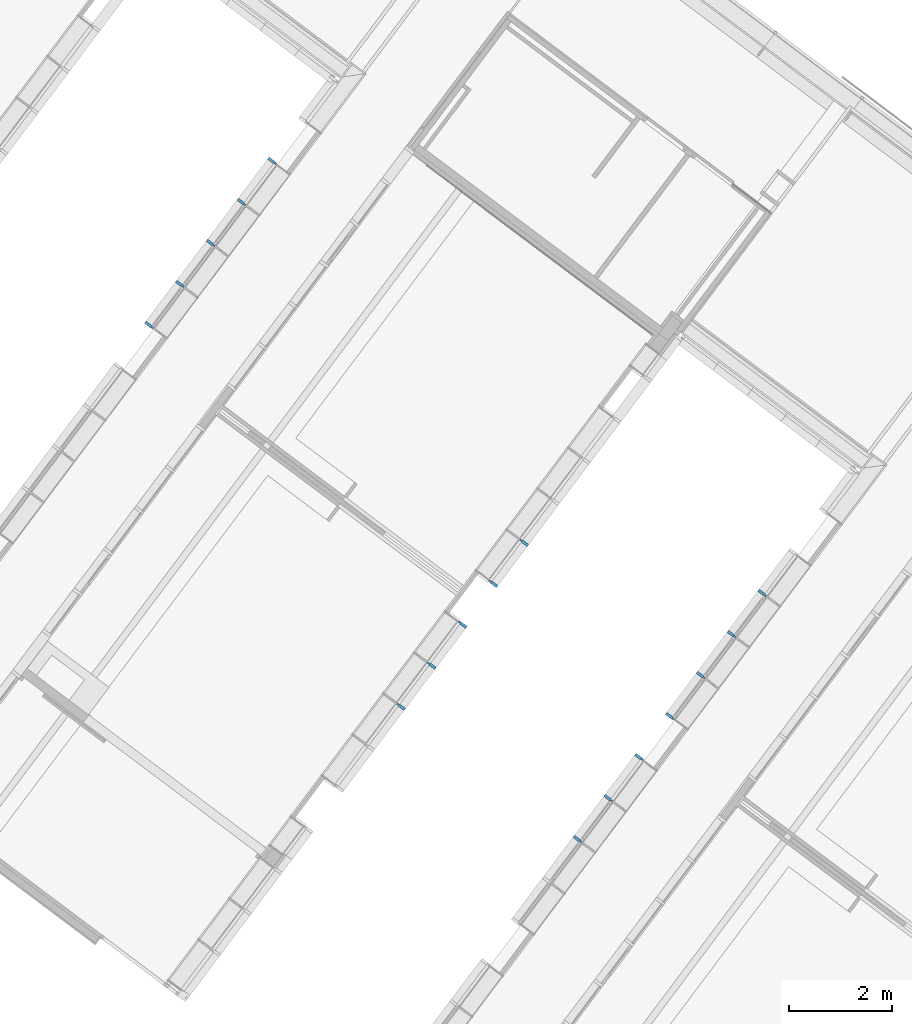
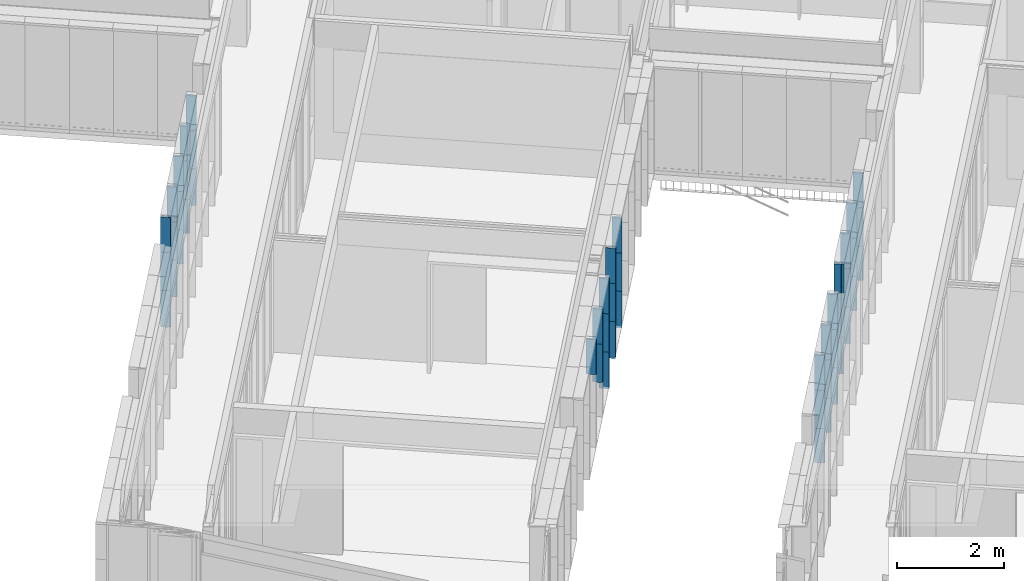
# One storey, part 96 of 243: 48 members, 3 elements without a shape of their own.
"""IFC2X3 building model written with IfcOpenShell, lengths in metres."""

from ifc_helpers import new_model, entity, si_unit, converted_unit, derived_unit, direction, frame, origin, place, context, subcontext, project, spatial, polyline, outline, extrude, source, transform, mapped, material, type_object, type_shapes, element, aggregate, save


model = new_model("IFC2X3")

# Units and contexts
model_context = context("Model", 3, precision=1e-05, world=origin(), true_north=direction((6.123031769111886e-17, 1.0)))
body_context = subcontext(model_context, "Body", "Model", "MODEL_VIEW")
ifc_project = project(units=[si_unit("LENGTHUNIT", "METRE"), si_unit("AREAUNIT", "SQUARE_METRE"), si_unit("VOLUMEUNIT", "CUBIC_METRE"), converted_unit("PLANEANGLEUNIT", "DEGREE", entity("IfcRatioMeasure", 0.017453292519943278), si_unit("PLANEANGLEUNIT", "RADIAN"), dimensions=[0, 0, 0, 0, 0, 0, 0]), si_unit("MASSUNIT", "GRAM", prefix="KILO"), derived_unit("MASSDENSITYUNIT", [(si_unit("MASSUNIT", "GRAM", prefix="KILO"), 1), (si_unit("LENGTHUNIT", "METRE"), -3)]), derived_unit("IONCONCENTRATIONUNIT", [(si_unit("MASSUNIT", "GRAM", prefix="KILO"), 1), (si_unit("LENGTHUNIT", "METRE"), -3)]), derived_unit("MOMENTOFINERTIAUNIT", [(si_unit("LENGTHUNIT", "METRE"), 4)]), si_unit("TIMEUNIT", "SECOND"), si_unit("FREQUENCYUNIT", "HERTZ"), si_unit("THERMODYNAMICTEMPERATUREUNIT", "DEGREE_CELSIUS"), derived_unit("THERMALTRANSMITTANCEUNIT", [(si_unit("MASSUNIT", "GRAM", prefix="KILO"), 1), (si_unit("THERMODYNAMICTEMPERATUREUNIT", "KELVIN"), -1), (si_unit("TIMEUNIT", "SECOND"), -3)]), derived_unit("THERMALCONDUCTANCEUNIT", [(si_unit("MASSUNIT", "GRAM", prefix="KILO"), 1), (si_unit("THERMODYNAMICTEMPERATUREUNIT", "KELVIN"), -1), (si_unit("TIMEUNIT", "SECOND"), -3), (si_unit("LENGTHUNIT", "METRE"), 1)]), derived_unit("VOLUMETRICFLOWRATEUNIT", [(si_unit("LENGTHUNIT", "METRE"), 3), (si_unit("TIMEUNIT", "SECOND"), -1)]), derived_unit("MASSFLOWRATEUNIT", [(si_unit("MASSUNIT", "GRAM", prefix="KILO"), 1), (si_unit("TIMEUNIT", "SECOND"), -1)]), derived_unit("ROTATIONALFREQUENCYUNIT", [(si_unit("TIMEUNIT", "SECOND"), -1)]), si_unit("ELECTRICCURRENTUNIT", "AMPERE"), si_unit("ELECTRICVOLTAGEUNIT", "VOLT"), si_unit("POWERUNIT", "WATT"), si_unit("FORCEUNIT", "NEWTON", prefix="KILO"), si_unit("ILLUMINANCEUNIT", "LUX"), si_unit("LUMINOUSFLUXUNIT", "LUMEN"), si_unit("LUMINOUSINTENSITYUNIT", "CANDELA"), derived_unit("USERDEFINED", [(si_unit("MASSUNIT", "GRAM", prefix="KILO"), -1), (si_unit("LENGTHUNIT", "METRE"), -2), (si_unit("TIMEUNIT", "SECOND"), 3), (si_unit("LUMINOUSFLUXUNIT", "LUMEN"), 1)]), derived_unit("USERDEFINED", [(si_unit("MASSUNIT", "GRAM", prefix="KILO"), 1), (si_unit("TIMEUNIT", "SECOND"), -3), (si_unit("LENGTHUNIT", "METRE"), 3), (si_unit("ELECTRICCURRENTUNIT", "AMPERE"), -2)]), derived_unit("SOUNDPOWERUNIT", [(si_unit("MASSUNIT", "GRAM", prefix="KILO"), 1), (si_unit("TIMEUNIT", "SECOND"), -3), (si_unit("LENGTHUNIT", "METRE"), 2)]), derived_unit("SOUNDPRESSUREUNIT", [(si_unit("MASSUNIT", "GRAM", prefix="KILO"), 1), (si_unit("LENGTHUNIT", "METRE"), -1), (si_unit("TIMEUNIT", "SECOND"), -2)]), derived_unit("LINEARVELOCITYUNIT", [(si_unit("LENGTHUNIT", "METRE"), 1), (si_unit("TIMEUNIT", "SECOND"), -1)]), si_unit("PRESSUREUNIT", "PASCAL"), derived_unit("USERDEFINED", [(si_unit("MASSUNIT", "GRAM", prefix="KILO"), 1), (si_unit("LENGTHUNIT", "METRE"), -2), (si_unit("TIMEUNIT", "SECOND"), -2)]), derived_unit("LINEARFORCEUNIT", [(si_unit("MASSUNIT", "GRAM", prefix="KILO"), 1), (si_unit("TIMEUNIT", "SECOND"), -2)]), derived_unit("PLANARFORCEUNIT", [(si_unit("MASSUNIT", "GRAM", prefix="KILO"), 1), (si_unit("LENGTHUNIT", "METRE"), -1), (si_unit("TIMEUNIT", "SECOND"), -2)]), derived_unit("SPECIFICHEATCAPACITYUNIT", [(si_unit("THERMODYNAMICTEMPERATUREUNIT", "KELVIN"), -1), (si_unit("LENGTHUNIT", "METRE"), 2), (si_unit("TIMEUNIT", "SECOND"), -2)]), derived_unit("HEATINGVALUEUNIT", [(si_unit("LENGTHUNIT", "METRE"), 2), (si_unit("TIMEUNIT", "SECOND"), -2)]), derived_unit("VAPORPERMEABILITYUNIT", [(si_unit("LENGTHUNIT", "METRE"), -1), (si_unit("TIMEUNIT", "SECOND"), 1)]), derived_unit("DYNAMICVISCOSITYUNIT", [(si_unit("MASSUNIT", "GRAM", prefix="KILO"), 1), (si_unit("TIMEUNIT", "SECOND"), -1), (si_unit("LENGTHUNIT", "METRE"), -1)]), derived_unit("THERMALEXPANSIONCOEFFICIENTUNIT", [(si_unit("THERMODYNAMICTEMPERATUREUNIT", "KELVIN"), -1)]), derived_unit("MODULUSOFELASTICITYUNIT", [(si_unit("MASSUNIT", "GRAM", prefix="KILO"), 1), (si_unit("LENGTHUNIT", "METRE"), -1), (si_unit("TIMEUNIT", "SECOND"), -2)]), derived_unit("ISOTHERMALMOISTURECAPACITYUNIT", [(si_unit("LENGTHUNIT", "METRE"), 3), (si_unit("MASSUNIT", "GRAM", prefix="KILO"), -1)]), derived_unit("MOISTUREDIFFUSIVITYUNIT", [(si_unit("TIMEUNIT", "SECOND"), -1), (si_unit("LENGTHUNIT", "METRE"), 2)])], contexts=[model_context])

# Site, building, storey
site_placement = place(None, frame((0.0, 0.0, 235.0), z_axis=(0.0, 0.0, 1.0), x_axis=(-0.7996477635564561, 0.6004693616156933, 0.0)))
site = spatial("IfcSite", under=ifc_project, at=site_placement, Name="Default", CompositionType="ELEMENT")
building_placement = place(site_placement, origin())
building = spatial("IfcBuilding", under=site, at=building_placement, CompositionType="ELEMENT")
storey_placement = place(building_placement, origin())
storey = spatial("IfcBuildingStorey", under=building, at=storey_placement, Name="P0- Escola", CompositionType="ELEMENT", Elevation=0.0)

# Curtain wall, members
curtain_wall_type_1 = type_object("IfcCurtainWallType", Name="Muro cortina:MC- EXT- MC2", PredefinedType="NOTDEFINED")
curtain_wall_1_placement = place(storey_placement, origin())
curtain_wall_1 = element("IfcCurtainWall", 1, at=curtain_wall_1_placement, inside=storey, type_object=curtain_wall_type_1, Name="Muro cortina:MC- EXT- MC2", ObjectType="Muro cortina:MC- EXT- MC2")
ifc_material = material(Name="_Alumini- T1- Perfil")
member_type_1 = type_object("IfcMemberType", Name="Montante rectangular:MC- Alu- 140x52,5 cm- Fa patis- Centre", PredefinedType="MULLION", material=ifc_material)
shared_shape_1 = source(origin(), body_context, "Body", "SweptSolid", [
    extrude(outline(polyline([(-0.11699999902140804, -0.026250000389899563), (0.021999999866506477, -0.026250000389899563), (0.021999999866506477, -0.01500000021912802), (0.07299999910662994, -0.01500000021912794), (0.07299999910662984, 0.015000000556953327), (0.02200000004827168, 0.015000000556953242), (0.02200000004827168, 0.026250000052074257), (-0.11699999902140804, 0.026250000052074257), (-0.11699999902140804, -0.026250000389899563)])), frame((0.0, 0.022999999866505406, -0.8400000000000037), z_axis=(0.0, 0.0, 1.0), x_axis=(0.0, -1.0, 0.0)), (0.0, 0.0, 1.0), 0.8400000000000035),
])
type_shapes(member_type_1, [shared_shape_1])
member_1_placement = place(curtain_wall_1_placement, frame((53.74514768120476, -29.415191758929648, -0.02), z_axis=(0.0, 0.0, -1.0), x_axis=(0.0, -1.0, 0.0)))
member_1 = element("IfcMember", 2, at=member_1_placement, type_object=member_type_1, material=ifc_material, Name="Montante rectangular:MC- Alu- 140x52,5 cm- Fa patis- Centre", ObjectType="Montante rectangular:MC- Alu- 140x52,5 cm- Fa patis- Centre", context=body_context, shape_type="MappedRepresentation", body=[
    mapped(shared_shape_1, transform((0.0, 0.0, 0.0), scale=1.0)),
])
member_2_placement = place(curtain_wall_1_placement, frame((53.74514768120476, -31.415191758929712, -0.02), z_axis=(0.0, 0.0, -1.0), x_axis=(0.0, -1.0, 0.0)))
member_2 = element("IfcMember", 3, at=member_2_placement, type_object=member_type_1, material=ifc_material, Name="Montante rectangular:MC- Alu- 140x52,5 cm- Fa patis- Centre", ObjectType="Montante rectangular:MC- Alu- 140x52,5 cm- Fa patis- Centre", context=body_context, shape_type="MappedRepresentation", body=[
    mapped(shared_shape_1, transform((0.0, 0.0, 0.0), scale=1.0)),
])
member_3_placement = place(curtain_wall_1_placement, frame((53.74514768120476, -30.41519175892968, -0.02), z_axis=(0.0, 0.0, -1.0), x_axis=(0.0, -1.0, 0.0)))
member_3 = element("IfcMember", 4, at=member_3_placement, type_object=member_type_1, material=ifc_material, Name="Montante rectangular:MC- Alu- 140x52,5 cm- Fa patis- Centre", ObjectType="Montante rectangular:MC- Alu- 140x52,5 cm- Fa patis- Centre", context=body_context, shape_type="MappedRepresentation", body=[
    mapped(shared_shape_1, transform((0.0, 0.0, 0.0), scale=1.0)),
])
member_type_2 = type_object("IfcMemberType", Name="Montante rectangular:MC- Alu- 140x52,5 cm- Fa patis- Centre", PredefinedType="MULLION", material=ifc_material)
shared_shape_2 = source(origin(), body_context, "Body", "SweptSolid", [
    extrude(outline(polyline([(-0.11699999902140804, -0.026250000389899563), (0.021999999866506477, -0.026250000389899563), (0.021999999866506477, -0.01500000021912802), (0.07299999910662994, -0.01500000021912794), (0.07299999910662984, 0.015000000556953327), (0.02200000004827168, 0.015000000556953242), (0.02200000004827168, 0.026250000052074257), (-0.11699999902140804, 0.026250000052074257), (-0.11699999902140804, -0.026250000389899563)])), frame((0.0, 0.022999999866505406, -0.8750000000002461), z_axis=(0.0, 0.0, 1.0), x_axis=(0.0, -1.0, 0.0)), (0.0, 0.0, 1.0), 0.8750000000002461),
])
type_shapes(member_type_2, [shared_shape_2])
member_4_placement = place(curtain_wall_1_placement, frame((53.74514768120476, -28.415191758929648, 0.8200000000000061), z_axis=(0.0, 0.0, -1.0), x_axis=(0.0, -1.0, 0.0)))
member_4 = element("IfcMember", 5, at=member_4_placement, type_object=member_type_2, material=ifc_material, Name="Montante rectangular:MC- Alu- 140x52,5 cm- Fa patis- Centre", ObjectType="Montante rectangular:MC- Alu- 140x52,5 cm- Fa patis- Centre", context=body_context, shape_type="MappedRepresentation", body=[
    mapped(shared_shape_2, transform((0.0, 0.0, 0.0), scale=1.0)),
])
member_5_placement = place(curtain_wall_1_placement, frame((53.74514768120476, -29.415191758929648, 0.8200000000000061), z_axis=(0.0, 0.0, -1.0), x_axis=(0.0, -1.0, 0.0)))
member_5 = element("IfcMember", 6, at=member_5_placement, type_object=member_type_2, material=ifc_material, Name="Montante rectangular:MC- Alu- 140x52,5 cm- Fa patis- Centre", ObjectType="Montante rectangular:MC- Alu- 140x52,5 cm- Fa patis- Centre", context=body_context, shape_type="MappedRepresentation", body=[
    mapped(shared_shape_2, transform((0.0, 0.0, 0.0), scale=1.0)),
])
member_6_placement = place(curtain_wall_1_placement, frame((53.74514768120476, -30.41519175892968, 0.8200000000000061), z_axis=(0.0, 0.0, -1.0), x_axis=(0.0, -1.0, 0.0)))
member_6 = element("IfcMember", 7, at=member_6_placement, type_object=member_type_2, material=ifc_material, Name="Montante rectangular:MC- Alu- 140x52,5 cm- Fa patis- Centre", ObjectType="Montante rectangular:MC- Alu- 140x52,5 cm- Fa patis- Centre", context=body_context, shape_type="MappedRepresentation", body=[
    mapped(shared_shape_2, transform((0.0, 0.0, 0.0), scale=1.0)),
])
member_7_placement = place(curtain_wall_1_placement, frame((53.74514768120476, -31.415191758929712, 0.8200000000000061), z_axis=(0.0, 0.0, -1.0), x_axis=(0.0, -1.0, 0.0)))
member_7 = element("IfcMember", 8, at=member_7_placement, type_object=member_type_2, material=ifc_material, Name="Montante rectangular:MC- Alu- 140x52,5 cm- Fa patis- Centre", ObjectType="Montante rectangular:MC- Alu- 140x52,5 cm- Fa patis- Centre", context=body_context, shape_type="MappedRepresentation", body=[
    mapped(shared_shape_2, transform((0.0, 0.0, 0.0), scale=1.0)),
])
member_type_3 = type_object("IfcMemberType", Name="Montante rectangular:MC- Alu- 140x52,5 cm- Fa patis- Centre", PredefinedType="MULLION", material=ifc_material)
shared_shape_3 = source(origin(), body_context, "Body", "SweptSolid", [
    extrude(outline(polyline([(-0.11699999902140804, -0.026250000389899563), (0.021999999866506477, -0.026250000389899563), (0.021999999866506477, -0.01500000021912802), (0.07299999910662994, -0.01500000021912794), (0.07299999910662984, 0.015000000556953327), (0.02200000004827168, 0.015000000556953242), (0.02200000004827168, 0.026250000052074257), (-0.11699999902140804, 0.026250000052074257), (-0.11699999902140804, -0.026250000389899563)])), frame((0.0, 0.022999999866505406, -0.79749999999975), z_axis=(0.0, 0.0, 1.0), x_axis=(0.0, -1.0, 0.0)), (0.0, 0.0, 1.0), 0.79749999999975),
])
type_shapes(member_type_3, [shared_shape_3])
member_8_placement = place(curtain_wall_1_placement, frame((53.74514768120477, -27.41519175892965, 1.6950000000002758), z_axis=(0.0, 0.0, -1.0), x_axis=(0.0, -1.0, 0.0)))
member_8 = element("IfcMember", 9, at=member_8_placement, type_object=member_type_3, material=ifc_material, Name="Montante rectangular:MC- Alu- 140x52,5 cm- Fa patis- Centre", ObjectType="Montante rectangular:MC- Alu- 140x52,5 cm- Fa patis- Centre", context=body_context, shape_type="MappedRepresentation", body=[
    mapped(shared_shape_3, transform((0.0, 0.0, 0.0), scale=1.0)),
])
member_9_placement = place(curtain_wall_1_placement, frame((53.74514768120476, -28.415191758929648, 1.6950000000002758), z_axis=(0.0, 0.0, -1.0), x_axis=(0.0, -1.0, 0.0)))
member_9 = element("IfcMember", 10, at=member_9_placement, type_object=member_type_3, material=ifc_material, Name="Montante rectangular:MC- Alu- 140x52,5 cm- Fa patis- Centre", ObjectType="Montante rectangular:MC- Alu- 140x52,5 cm- Fa patis- Centre", context=body_context, shape_type="MappedRepresentation", body=[
    mapped(shared_shape_3, transform((0.0, 0.0, 0.0), scale=1.0)),
])
member_10_placement = place(curtain_wall_1_placement, frame((53.74514768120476, -29.415191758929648, 1.6950000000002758), z_axis=(0.0, 0.0, -1.0), x_axis=(0.0, -1.0, 0.0)))
member_10 = element("IfcMember", 11, at=member_10_placement, type_object=member_type_3, material=ifc_material, Name="Montante rectangular:MC- Alu- 140x52,5 cm- Fa patis- Centre", ObjectType="Montante rectangular:MC- Alu- 140x52,5 cm- Fa patis- Centre", context=body_context, shape_type="MappedRepresentation", body=[
    mapped(shared_shape_3, transform((0.0, 0.0, 0.0), scale=1.0)),
])
member_11_placement = place(curtain_wall_1_placement, frame((53.74514768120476, -30.41519175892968, 1.6950000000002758), z_axis=(0.0, 0.0, -1.0), x_axis=(0.0, -1.0, 0.0)))
member_11 = element("IfcMember", 12, at=member_11_placement, type_object=member_type_3, material=ifc_material, Name="Montante rectangular:MC- Alu- 140x52,5 cm- Fa patis- Centre", ObjectType="Montante rectangular:MC- Alu- 140x52,5 cm- Fa patis- Centre", context=body_context, shape_type="MappedRepresentation", body=[
    mapped(shared_shape_3, transform((0.0, 0.0, 0.0), scale=1.0)),
])
member_12_placement = place(curtain_wall_1_placement, frame((53.74514768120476, -31.415191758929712, 1.6950000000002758), z_axis=(0.0, 0.0, -1.0), x_axis=(0.0, -1.0, 0.0)))
member_12 = element("IfcMember", 13, at=member_12_placement, type_object=member_type_3, material=ifc_material, Name="Montante rectangular:MC- Alu- 140x52,5 cm- Fa patis- Centre", ObjectType="Montante rectangular:MC- Alu- 140x52,5 cm- Fa patis- Centre", context=body_context, shape_type="MappedRepresentation", body=[
    mapped(shared_shape_3, transform((0.0, 0.0, 0.0), scale=1.0)),
])
aggregate(curtain_wall_1, [member_1, member_2, member_3, member_4, member_5, member_6, member_7, member_8, member_9, member_10, member_11, member_12])

curtain_wall_type_2 = type_object("IfcCurtainWallType", Name="Muro cortina:MC- EXT- MC5", PredefinedType="NOTDEFINED")
curtain_wall_2_placement = place(storey_placement, origin())
curtain_wall_2 = element("IfcCurtainWall", 14, at=curtain_wall_2_placement, inside=storey, type_object=curtain_wall_type_2, Name="Muro cortina:MC- EXT- MC5", ObjectType="Muro cortina:MC- EXT- MC5")
member_type_4 = type_object("IfcMemberType", Name="Montante rectangular:MC- Alu- 140x52,5 cm- Fa patis- Centre", PredefinedType="MULLION", material=ifc_material)
shared_shape_4 = source(origin(), body_context, "Body", "SweptSolid", [
    extrude(outline(polyline([(-0.021999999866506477, -0.026250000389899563), (0.11699999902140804, -0.026250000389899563), (0.11699999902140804, 0.026250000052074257), (-0.02200000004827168, 0.026250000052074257), (-0.02200000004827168, 0.015000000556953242), (-0.07299999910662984, 0.015000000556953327), (-0.07299999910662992, -0.01500000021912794), (-0.021999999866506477, -0.01500000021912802), (-0.021999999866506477, -0.026250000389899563)])), frame((0.0, -0.022999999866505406, -0.8400000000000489), z_axis=(0.0, 0.0, 1.0), x_axis=(0.0, -1.0, 0.0)), (0.0, 0.0, 1.0), 0.8400000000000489),
])
type_shapes(member_type_4, [shared_shape_4])
member_13_placement = place(curtain_wall_2_placement, frame((49.34514768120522, -29.415191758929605, -0.02), z_axis=(0.0, 0.0, -1.0), x_axis=(0.0, -1.0, 0.0)))
member_13 = element("IfcMember", 15, at=member_13_placement, type_object=member_type_4, material=ifc_material, Name="Montante rectangular:MC- Alu- 140x52,5 cm- Fa patis- Centre", ObjectType="Montante rectangular:MC- Alu- 140x52,5 cm- Fa patis- Centre", context=body_context, shape_type="MappedRepresentation", body=[
    mapped(shared_shape_4, transform((0.0, 0.0, 0.0), scale=1.0)),
])
member_14_placement = place(curtain_wall_2_placement, frame((49.34514768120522, -31.41519175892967, -0.02), z_axis=(0.0, 0.0, -1.0), x_axis=(0.0, -1.0, 0.0)))
member_14 = element("IfcMember", 16, at=member_14_placement, type_object=member_type_4, material=ifc_material, Name="Montante rectangular:MC- Alu- 140x52,5 cm- Fa patis- Centre", ObjectType="Montante rectangular:MC- Alu- 140x52,5 cm- Fa patis- Centre", context=body_context, shape_type="MappedRepresentation", body=[
    mapped(shared_shape_4, transform((0.0, 0.0, 0.0), scale=1.0)),
])
member_15_placement = place(curtain_wall_2_placement, frame((49.34514768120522, -30.415191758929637, -0.02), z_axis=(0.0, 0.0, -1.0), x_axis=(0.0, -1.0, 0.0)))
member_15 = element("IfcMember", 17, at=member_15_placement, type_object=member_type_4, material=ifc_material, Name="Montante rectangular:MC- Alu- 140x52,5 cm- Fa patis- Centre", ObjectType="Montante rectangular:MC- Alu- 140x52,5 cm- Fa patis- Centre", context=body_context, shape_type="MappedRepresentation", body=[
    mapped(shared_shape_4, transform((0.0, 0.0, 0.0), scale=1.0)),
])

curtain_wall_3_placement = place(storey_placement, origin())
curtain_wall_3 = element("IfcCurtainWall", 18, at=curtain_wall_3_placement, inside=storey, type_object=curtain_wall_type_2, Name="Muro cortina:MC- EXT- MC5", ObjectType="Muro cortina:MC- EXT- MC5")
member_16_placement = place(curtain_wall_3_placement, frame((62.045147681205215, -31.415191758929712, -0.02), z_axis=(0.0, 0.0, -1.0), x_axis=(0.0, -1.0, 0.0)))
member_16 = element("IfcMember", 19, at=member_16_placement, type_object=member_type_4, material=ifc_material, Name="Montante rectangular:MC- Alu- 140x52,5 cm- Fa patis- Centre", ObjectType="Montante rectangular:MC- Alu- 140x52,5 cm- Fa patis- Centre", context=body_context, shape_type="MappedRepresentation", body=[
    mapped(shared_shape_4, transform((0.0, 0.0, 0.0), scale=1.0)),
])
member_17_placement = place(curtain_wall_3_placement, frame((62.045147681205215, -30.41519175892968, -0.02), z_axis=(0.0, 0.0, -1.0), x_axis=(0.0, -1.0, 0.0)))
member_17 = element("IfcMember", 20, at=member_17_placement, type_object=member_type_4, material=ifc_material, Name="Montante rectangular:MC- Alu- 140x52,5 cm- Fa patis- Centre", ObjectType="Montante rectangular:MC- Alu- 140x52,5 cm- Fa patis- Centre", context=body_context, shape_type="MappedRepresentation", body=[
    mapped(shared_shape_4, transform((0.0, 0.0, 0.0), scale=1.0)),
])
member_18_placement = place(curtain_wall_3_placement, frame((62.04514768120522, -34.4151917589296, -0.02), z_axis=(0.0, 0.0, -1.0), x_axis=(0.0, -1.0, 0.0)))
member_18 = element("IfcMember", 21, at=member_18_placement, type_object=member_type_4, material=ifc_material, Name="Montante rectangular:MC- Alu- 140x52,5 cm- Fa patis- Centre", ObjectType="Montante rectangular:MC- Alu- 140x52,5 cm- Fa patis- Centre", context=body_context, shape_type="MappedRepresentation", body=[
    mapped(shared_shape_4, transform((0.0, 0.0, 0.0), scale=1.0)),
])

# Member
member_type_5 = type_object("IfcMemberType", Name="Montante rectangular:MC- Alu- 140x52,5 cm- Fa patis- Centre", PredefinedType="MULLION", material=ifc_material)
shared_shape_5 = source(origin(), body_context, "Body", "SweptSolid", [
    extrude(outline(polyline([(-0.021999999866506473, -0.026250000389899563), (0.11699999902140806, -0.026250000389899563), (0.11699999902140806, 0.026250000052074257), (-0.022000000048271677, 0.026250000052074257), (-0.022000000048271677, 0.015000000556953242), (-0.07299999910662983, 0.015000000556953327), (-0.07299999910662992, -0.01500000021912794), (-0.021999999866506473, -0.01500000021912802), (-0.021999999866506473, -0.026250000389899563)])), frame((0.0, -0.022999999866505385, -0.7850000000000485), z_axis=(0.0, 0.0, 1.0), x_axis=(0.0, -1.0, 0.0)), (0.0, 0.0, 1.0), 0.7850000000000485),
])
type_shapes(member_type_5, [shared_shape_5])
member_19_placement = place(curtain_wall_2_placement, frame((49.345147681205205, -27.41519175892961, 0.035000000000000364), z_axis=(0.0, 0.0, -1.0), x_axis=(0.0, -1.0, 0.0)))
member_19 = element("IfcMember", 22, at=member_19_placement, type_object=member_type_5, material=ifc_material, Name="Montante rectangular:MC- Alu- 140x52,5 cm- Fa patis- Centre", ObjectType="Montante rectangular:MC- Alu- 140x52,5 cm- Fa patis- Centre", context=body_context, shape_type="MappedRepresentation", body=[
    mapped(shared_shape_5, transform((0.0, 0.0, 0.0), scale=1.0)),
])

member_20_placement = place(curtain_wall_2_placement, frame((49.34514768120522, -28.415191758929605, 0.035000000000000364), z_axis=(0.0, 0.0, -1.0), x_axis=(0.0, -1.0, 0.0)))
member_20 = element("IfcMember", 23, at=member_20_placement, type_object=member_type_5, material=ifc_material, Name="Montante rectangular:MC- Alu- 140x52,5 cm- Fa patis- Centre", ObjectType="Montante rectangular:MC- Alu- 140x52,5 cm- Fa patis- Centre", context=body_context, shape_type="MappedRepresentation", body=[
    mapped(shared_shape_5, transform((0.0, 0.0, 0.0), scale=1.0)),
])

member_21_placement = place(curtain_wall_2_placement, frame((49.34514768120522, -32.415191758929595, 0.035000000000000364), z_axis=(0.0, 0.0, -1.0), x_axis=(0.0, -1.0, 0.0)))
member_21 = element("IfcMember", 24, at=member_21_placement, type_object=member_type_5, material=ifc_material, Name="Montante rectangular:MC- Alu- 140x52,5 cm- Fa patis- Centre", ObjectType="Montante rectangular:MC- Alu- 140x52,5 cm- Fa patis- Centre", context=body_context, shape_type="MappedRepresentation", body=[
    mapped(shared_shape_5, transform((0.0, 0.0, 0.0), scale=1.0)),
])

member_22_placement = place(curtain_wall_2_placement, frame((49.34514768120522, -33.415191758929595, 0.035000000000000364), z_axis=(0.0, 0.0, -1.0), x_axis=(0.0, -1.0, 0.0)))
member_22 = element("IfcMember", 25, at=member_22_placement, type_object=member_type_5, material=ifc_material, Name="Montante rectangular:MC- Alu- 140x52,5 cm- Fa patis- Centre", ObjectType="Montante rectangular:MC- Alu- 140x52,5 cm- Fa patis- Centre", context=body_context, shape_type="MappedRepresentation", body=[
    mapped(shared_shape_5, transform((0.0, 0.0, 0.0), scale=1.0)),
])

member_23_placement = place(curtain_wall_3_placement, frame((62.045147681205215, -32.415191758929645, 0.035000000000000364), z_axis=(0.0, 0.0, -1.0), x_axis=(0.0, -1.0, 0.0)))
member_23 = element("IfcMember", 26, at=member_23_placement, type_object=member_type_5, material=ifc_material, Name="Montante rectangular:MC- Alu- 140x52,5 cm- Fa patis- Centre", ObjectType="Montante rectangular:MC- Alu- 140x52,5 cm- Fa patis- Centre", context=body_context, shape_type="MappedRepresentation", body=[
    mapped(shared_shape_5, transform((0.0, 0.0, 0.0), scale=1.0)),
])

member_24_placement = place(curtain_wall_3_placement, frame((62.045147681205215, -33.41519175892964, 0.035000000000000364), z_axis=(0.0, 0.0, -1.0), x_axis=(0.0, -1.0, 0.0)))
member_24 = element("IfcMember", 27, at=member_24_placement, type_object=member_type_5, material=ifc_material, Name="Montante rectangular:MC- Alu- 140x52,5 cm- Fa patis- Centre", ObjectType="Montante rectangular:MC- Alu- 140x52,5 cm- Fa patis- Centre", context=body_context, shape_type="MappedRepresentation", body=[
    mapped(shared_shape_5, transform((0.0, 0.0, 0.0), scale=1.0)),
])

member_type_6 = type_object("IfcMemberType", Name="Montante rectangular:MC- Alu- 140x52,5 cm- Fa patis- Centre", PredefinedType="MULLION", material=ifc_material)
shared_shape_6 = source(origin(), body_context, "Body", "SweptSolid", [
    extrude(outline(polyline([(-0.021999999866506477, -0.026250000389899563), (0.11699999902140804, -0.026250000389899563), (0.11699999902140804, 0.026250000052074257), (-0.02200000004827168, 0.026250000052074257), (-0.02200000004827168, 0.015000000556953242), (-0.07299999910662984, 0.015000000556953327), (-0.07299999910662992, -0.01500000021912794), (-0.021999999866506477, -0.01500000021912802), (-0.021999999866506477, -0.026250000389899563)])), frame((0.0, -0.022999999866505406, -0.8750000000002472), z_axis=(0.0, 0.0, 1.0), x_axis=(0.0, -1.0, 0.0)), (0.0, 0.0, 1.0), 0.8750000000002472),
])
type_shapes(member_type_6, [shared_shape_6])
member_25_placement = place(curtain_wall_2_placement, frame((49.345147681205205, -27.41519175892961, 0.8200000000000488), z_axis=(0.0, 0.0, -1.0), x_axis=(0.0, -1.0, 0.0)))
member_25 = element("IfcMember", 28, at=member_25_placement, type_object=member_type_6, material=ifc_material, Name="Montante rectangular:MC- Alu- 140x52,5 cm- Fa patis- Centre", ObjectType="Montante rectangular:MC- Alu- 140x52,5 cm- Fa patis- Centre", context=body_context, shape_type="MappedRepresentation", body=[
    mapped(shared_shape_6, transform((0.0, 0.0, 0.0), scale=1.0)),
])

member_26_placement = place(curtain_wall_2_placement, frame((49.34514768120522, -28.415191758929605, 0.8200000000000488), z_axis=(0.0, 0.0, -1.0), x_axis=(0.0, -1.0, 0.0)))
member_26 = element("IfcMember", 29, at=member_26_placement, type_object=member_type_6, material=ifc_material, Name="Montante rectangular:MC- Alu- 140x52,5 cm- Fa patis- Centre", ObjectType="Montante rectangular:MC- Alu- 140x52,5 cm- Fa patis- Centre", context=body_context, shape_type="MappedRepresentation", body=[
    mapped(shared_shape_6, transform((0.0, 0.0, 0.0), scale=1.0)),
])

member_27_placement = place(curtain_wall_2_placement, frame((49.34514768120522, -29.415191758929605, 0.8200000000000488), z_axis=(0.0, 0.0, -1.0), x_axis=(0.0, -1.0, 0.0)))
member_27 = element("IfcMember", 30, at=member_27_placement, type_object=member_type_6, material=ifc_material, Name="Montante rectangular:MC- Alu- 140x52,5 cm- Fa patis- Centre", ObjectType="Montante rectangular:MC- Alu- 140x52,5 cm- Fa patis- Centre", context=body_context, shape_type="MappedRepresentation", body=[
    mapped(shared_shape_6, transform((0.0, 0.0, 0.0), scale=1.0)),
])

member_28_placement = place(curtain_wall_2_placement, frame((49.34514768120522, -30.415191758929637, 0.8200000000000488), z_axis=(0.0, 0.0, -1.0), x_axis=(0.0, -1.0, 0.0)))
member_28 = element("IfcMember", 31, at=member_28_placement, type_object=member_type_6, material=ifc_material, Name="Montante rectangular:MC- Alu- 140x52,5 cm- Fa patis- Centre", ObjectType="Montante rectangular:MC- Alu- 140x52,5 cm- Fa patis- Centre", context=body_context, shape_type="MappedRepresentation", body=[
    mapped(shared_shape_6, transform((0.0, 0.0, 0.0), scale=1.0)),
])

member_29_placement = place(curtain_wall_2_placement, frame((49.34514768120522, -31.41519175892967, 0.8200000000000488), z_axis=(0.0, 0.0, -1.0), x_axis=(0.0, -1.0, 0.0)))
member_29 = element("IfcMember", 32, at=member_29_placement, type_object=member_type_6, material=ifc_material, Name="Montante rectangular:MC- Alu- 140x52,5 cm- Fa patis- Centre", ObjectType="Montante rectangular:MC- Alu- 140x52,5 cm- Fa patis- Centre", context=body_context, shape_type="MappedRepresentation", body=[
    mapped(shared_shape_6, transform((0.0, 0.0, 0.0), scale=1.0)),
])

member_30_placement = place(curtain_wall_2_placement, frame((49.34514768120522, -32.415191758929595, 0.8200000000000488), z_axis=(0.0, 0.0, -1.0), x_axis=(0.0, -1.0, 0.0)))
member_30 = element("IfcMember", 33, at=member_30_placement, type_object=member_type_6, material=ifc_material, Name="Montante rectangular:MC- Alu- 140x52,5 cm- Fa patis- Centre", ObjectType="Montante rectangular:MC- Alu- 140x52,5 cm- Fa patis- Centre", context=body_context, shape_type="MappedRepresentation", body=[
    mapped(shared_shape_6, transform((0.0, 0.0, 0.0), scale=1.0)),
])

member_31_placement = place(curtain_wall_2_placement, frame((49.34514768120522, -33.415191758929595, 0.8200000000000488), z_axis=(0.0, 0.0, -1.0), x_axis=(0.0, -1.0, 0.0)))
member_31 = element("IfcMember", 34, at=member_31_placement, type_object=member_type_6, material=ifc_material, Name="Montante rectangular:MC- Alu- 140x52,5 cm- Fa patis- Centre", ObjectType="Montante rectangular:MC- Alu- 140x52,5 cm- Fa patis- Centre", context=body_context, shape_type="MappedRepresentation", body=[
    mapped(shared_shape_6, transform((0.0, 0.0, 0.0), scale=1.0)),
])

member_32_placement = place(curtain_wall_3_placement, frame((62.045147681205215, -30.41519175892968, 0.8200000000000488), z_axis=(0.0, 0.0, -1.0), x_axis=(0.0, -1.0, 0.0)))
member_32 = element("IfcMember", 35, at=member_32_placement, type_object=member_type_6, material=ifc_material, Name="Montante rectangular:MC- Alu- 140x52,5 cm- Fa patis- Centre", ObjectType="Montante rectangular:MC- Alu- 140x52,5 cm- Fa patis- Centre", context=body_context, shape_type="MappedRepresentation", body=[
    mapped(shared_shape_6, transform((0.0, 0.0, 0.0), scale=1.0)),
])

member_33_placement = place(curtain_wall_3_placement, frame((62.045147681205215, -31.415191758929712, 0.8200000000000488), z_axis=(0.0, 0.0, -1.0), x_axis=(0.0, -1.0, 0.0)))
member_33 = element("IfcMember", 36, at=member_33_placement, type_object=member_type_6, material=ifc_material, Name="Montante rectangular:MC- Alu- 140x52,5 cm- Fa patis- Centre", ObjectType="Montante rectangular:MC- Alu- 140x52,5 cm- Fa patis- Centre", context=body_context, shape_type="MappedRepresentation", body=[
    mapped(shared_shape_6, transform((0.0, 0.0, 0.0), scale=1.0)),
])

member_34_placement = place(curtain_wall_3_placement, frame((62.045147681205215, -32.415191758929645, 0.8200000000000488), z_axis=(0.0, 0.0, -1.0), x_axis=(0.0, -1.0, 0.0)))
member_34 = element("IfcMember", 37, at=member_34_placement, type_object=member_type_6, material=ifc_material, Name="Montante rectangular:MC- Alu- 140x52,5 cm- Fa patis- Centre", ObjectType="Montante rectangular:MC- Alu- 140x52,5 cm- Fa patis- Centre", context=body_context, shape_type="MappedRepresentation", body=[
    mapped(shared_shape_6, transform((0.0, 0.0, 0.0), scale=1.0)),
])

member_35_placement = place(curtain_wall_3_placement, frame((62.045147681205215, -33.41519175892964, 0.8200000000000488), z_axis=(0.0, 0.0, -1.0), x_axis=(0.0, -1.0, 0.0)))
member_35 = element("IfcMember", 38, at=member_35_placement, type_object=member_type_6, material=ifc_material, Name="Montante rectangular:MC- Alu- 140x52,5 cm- Fa patis- Centre", ObjectType="Montante rectangular:MC- Alu- 140x52,5 cm- Fa patis- Centre", context=body_context, shape_type="MappedRepresentation", body=[
    mapped(shared_shape_6, transform((0.0, 0.0, 0.0), scale=1.0)),
])

member_36_placement = place(curtain_wall_3_placement, frame((62.04514768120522, -34.4151917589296, 0.8200000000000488), z_axis=(0.0, 0.0, -1.0), x_axis=(0.0, -1.0, 0.0)))
member_36 = element("IfcMember", 39, at=member_36_placement, type_object=member_type_6, material=ifc_material, Name="Montante rectangular:MC- Alu- 140x52,5 cm- Fa patis- Centre", ObjectType="Montante rectangular:MC- Alu- 140x52,5 cm- Fa patis- Centre", context=body_context, shape_type="MappedRepresentation", body=[
    mapped(shared_shape_6, transform((0.0, 0.0, 0.0), scale=1.0)),
])

member_type_7 = type_object("IfcMemberType", Name="Montante rectangular:MC- Alu- 140x52,5 cm- Fa patis- Centre", PredefinedType="MULLION", material=ifc_material)
shared_shape_7 = source(origin(), body_context, "Body", "SweptSolid", [
    extrude(outline(polyline([(-0.021999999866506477, -0.026250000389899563), (0.11699999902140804, -0.026250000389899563), (0.11699999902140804, 0.026250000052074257), (-0.02200000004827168, 0.026250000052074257), (-0.02200000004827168, 0.015000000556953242), (-0.07299999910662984, 0.015000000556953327), (-0.07299999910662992, -0.01500000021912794), (-0.021999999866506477, -0.01500000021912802), (-0.021999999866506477, -0.026250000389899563)])), frame((0.0, -0.022999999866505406, -0.7974999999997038), z_axis=(0.0, 0.0, 1.0), x_axis=(0.0, -1.0, 0.0)), (0.0, 0.0, 1.0), 0.7974999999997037),
])
type_shapes(member_type_7, [shared_shape_7])
member_37_placement = place(curtain_wall_2_placement, frame((49.345147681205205, -27.41519175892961, 1.695000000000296), z_axis=(0.0, 0.0, -1.0), x_axis=(0.0, -1.0, 0.0)))
member_37 = element("IfcMember", 40, at=member_37_placement, type_object=member_type_7, material=ifc_material, Name="Montante rectangular:MC- Alu- 140x52,5 cm- Fa patis- Centre", ObjectType="Montante rectangular:MC- Alu- 140x52,5 cm- Fa patis- Centre", context=body_context, shape_type="MappedRepresentation", body=[
    mapped(shared_shape_7, transform((0.0, 0.0, 0.0), scale=1.0)),
])

member_38_placement = place(curtain_wall_2_placement, frame((49.34514768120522, -28.415191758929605, 1.695000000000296), z_axis=(0.0, 0.0, -1.0), x_axis=(0.0, -1.0, 0.0)))
member_38 = element("IfcMember", 41, at=member_38_placement, type_object=member_type_7, material=ifc_material, Name="Montante rectangular:MC- Alu- 140x52,5 cm- Fa patis- Centre", ObjectType="Montante rectangular:MC- Alu- 140x52,5 cm- Fa patis- Centre", context=body_context, shape_type="MappedRepresentation", body=[
    mapped(shared_shape_7, transform((0.0, 0.0, 0.0), scale=1.0)),
])

member_39_placement = place(curtain_wall_2_placement, frame((49.34514768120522, -29.415191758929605, 1.695000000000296), z_axis=(0.0, 0.0, -1.0), x_axis=(0.0, -1.0, 0.0)))
member_39 = element("IfcMember", 42, at=member_39_placement, type_object=member_type_7, material=ifc_material, Name="Montante rectangular:MC- Alu- 140x52,5 cm- Fa patis- Centre", ObjectType="Montante rectangular:MC- Alu- 140x52,5 cm- Fa patis- Centre", context=body_context, shape_type="MappedRepresentation", body=[
    mapped(shared_shape_7, transform((0.0, 0.0, 0.0), scale=1.0)),
])

member_40_placement = place(curtain_wall_2_placement, frame((49.34514768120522, -30.415191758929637, 1.695000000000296), z_axis=(0.0, 0.0, -1.0), x_axis=(0.0, -1.0, 0.0)))
member_40 = element("IfcMember", 43, at=member_40_placement, type_object=member_type_7, material=ifc_material, Name="Montante rectangular:MC- Alu- 140x52,5 cm- Fa patis- Centre", ObjectType="Montante rectangular:MC- Alu- 140x52,5 cm- Fa patis- Centre", context=body_context, shape_type="MappedRepresentation", body=[
    mapped(shared_shape_7, transform((0.0, 0.0, 0.0), scale=1.0)),
])

member_41_placement = place(curtain_wall_2_placement, frame((49.34514768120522, -31.41519175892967, 1.695000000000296), z_axis=(0.0, 0.0, -1.0), x_axis=(0.0, -1.0, 0.0)))
member_41 = element("IfcMember", 44, at=member_41_placement, type_object=member_type_7, material=ifc_material, Name="Montante rectangular:MC- Alu- 140x52,5 cm- Fa patis- Centre", ObjectType="Montante rectangular:MC- Alu- 140x52,5 cm- Fa patis- Centre", context=body_context, shape_type="MappedRepresentation", body=[
    mapped(shared_shape_7, transform((0.0, 0.0, 0.0), scale=1.0)),
])

member_42_placement = place(curtain_wall_2_placement, frame((49.34514768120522, -32.415191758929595, 1.695000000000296), z_axis=(0.0, 0.0, -1.0), x_axis=(0.0, -1.0, 0.0)))
member_42 = element("IfcMember", 45, at=member_42_placement, type_object=member_type_7, material=ifc_material, Name="Montante rectangular:MC- Alu- 140x52,5 cm- Fa patis- Centre", ObjectType="Montante rectangular:MC- Alu- 140x52,5 cm- Fa patis- Centre", context=body_context, shape_type="MappedRepresentation", body=[
    mapped(shared_shape_7, transform((0.0, 0.0, 0.0), scale=1.0)),
])

member_43_placement = place(curtain_wall_2_placement, frame((49.34514768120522, -33.415191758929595, 1.695000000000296), z_axis=(0.0, 0.0, -1.0), x_axis=(0.0, -1.0, 0.0)))
member_43 = element("IfcMember", 46, at=member_43_placement, type_object=member_type_7, material=ifc_material, Name="Montante rectangular:MC- Alu- 140x52,5 cm- Fa patis- Centre", ObjectType="Montante rectangular:MC- Alu- 140x52,5 cm- Fa patis- Centre", context=body_context, shape_type="MappedRepresentation", body=[
    mapped(shared_shape_7, transform((0.0, 0.0, 0.0), scale=1.0)),
])

aggregate(curtain_wall_2, [member_19, member_20, member_13, member_14, member_21, member_22, member_15, member_25, member_26, member_27, member_28, member_29, member_30, member_31, member_37, member_38, member_39, member_40, member_41, member_42, member_43])

member_44_placement = place(curtain_wall_3_placement, frame((62.045147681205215, -30.41519175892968, 1.695000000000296), z_axis=(0.0, 0.0, -1.0), x_axis=(0.0, -1.0, 0.0)))
member_44 = element("IfcMember", 47, at=member_44_placement, type_object=member_type_7, material=ifc_material, Name="Montante rectangular:MC- Alu- 140x52,5 cm- Fa patis- Centre", ObjectType="Montante rectangular:MC- Alu- 140x52,5 cm- Fa patis- Centre", context=body_context, shape_type="MappedRepresentation", body=[
    mapped(shared_shape_7, transform((0.0, 0.0, 0.0), scale=1.0)),
])

member_45_placement = place(curtain_wall_3_placement, frame((62.045147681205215, -31.415191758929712, 1.695000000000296), z_axis=(0.0, 0.0, -1.0), x_axis=(0.0, -1.0, 0.0)))
member_45 = element("IfcMember", 48, at=member_45_placement, type_object=member_type_7, material=ifc_material, Name="Montante rectangular:MC- Alu- 140x52,5 cm- Fa patis- Centre", ObjectType="Montante rectangular:MC- Alu- 140x52,5 cm- Fa patis- Centre", context=body_context, shape_type="MappedRepresentation", body=[
    mapped(shared_shape_7, transform((0.0, 0.0, 0.0), scale=1.0)),
])

member_46_placement = place(curtain_wall_3_placement, frame((62.045147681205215, -32.415191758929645, 1.695000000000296), z_axis=(0.0, 0.0, -1.0), x_axis=(0.0, -1.0, 0.0)))
member_46 = element("IfcMember", 49, at=member_46_placement, type_object=member_type_7, material=ifc_material, Name="Montante rectangular:MC- Alu- 140x52,5 cm- Fa patis- Centre", ObjectType="Montante rectangular:MC- Alu- 140x52,5 cm- Fa patis- Centre", context=body_context, shape_type="MappedRepresentation", body=[
    mapped(shared_shape_7, transform((0.0, 0.0, 0.0), scale=1.0)),
])

member_47_placement = place(curtain_wall_3_placement, frame((62.045147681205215, -33.41519175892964, 1.695000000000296), z_axis=(0.0, 0.0, -1.0), x_axis=(0.0, -1.0, 0.0)))
member_47 = element("IfcMember", 50, at=member_47_placement, type_object=member_type_7, material=ifc_material, Name="Montante rectangular:MC- Alu- 140x52,5 cm- Fa patis- Centre", ObjectType="Montante rectangular:MC- Alu- 140x52,5 cm- Fa patis- Centre", context=body_context, shape_type="MappedRepresentation", body=[
    mapped(shared_shape_7, transform((0.0, 0.0, 0.0), scale=1.0)),
])

member_48_placement = place(curtain_wall_3_placement, frame((62.04514768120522, -34.4151917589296, 1.695000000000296), z_axis=(0.0, 0.0, -1.0), x_axis=(0.0, -1.0, 0.0)))
member_48 = element("IfcMember", 51, at=member_48_placement, type_object=member_type_7, material=ifc_material, Name="Montante rectangular:MC- Alu- 140x52,5 cm- Fa patis- Centre", ObjectType="Montante rectangular:MC- Alu- 140x52,5 cm- Fa patis- Centre", context=body_context, shape_type="MappedRepresentation", body=[
    mapped(shared_shape_7, transform((0.0, 0.0, 0.0), scale=1.0)),
])

aggregate(curtain_wall_3, [member_16, member_23, member_24, member_17, member_18, member_32, member_33, member_34, member_35, member_36, member_44, member_45, member_46, member_47, member_48])

save(model, "model.ifc")
